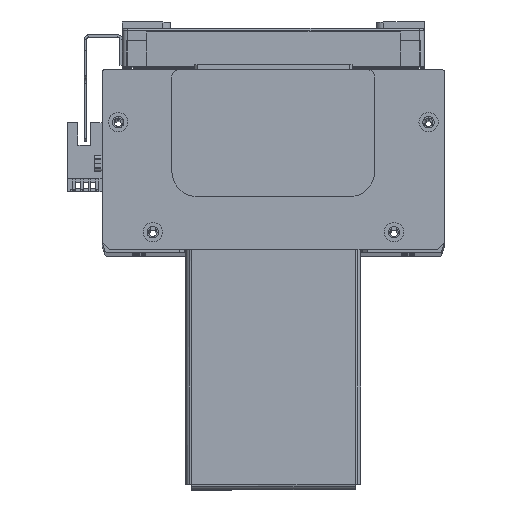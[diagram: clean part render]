
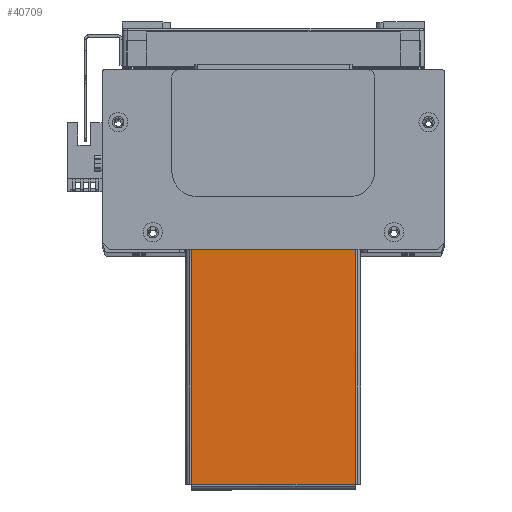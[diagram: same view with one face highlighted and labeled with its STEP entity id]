
A CAD part, top view. The second image highlights one B-rep face of the part: STEP entity #40709.
In plain terms, the highlighted planar face has unit normal (0, 0, 1) as drawn and (0, -1, 0) by its records, which use the part's own axes.
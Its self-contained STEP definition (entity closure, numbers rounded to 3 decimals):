
#976 = VERTEX_POINT ( 'NONE', #34907 ) ;
#984 = VERTEX_POINT ( 'NONE', #34879 ) ;
#985 = VERTEX_POINT ( 'NONE', #34909 ) ;
#986 = VERTEX_POINT ( 'NONE', #34896 ) ;
#2270 = DIRECTION ( 'NONE',  ( 0., 0., 1. ) ) ;
#2272 = CARTESIAN_POINT ( 'NONE',  ( 0., -1.5, 0. ) ) ;
#2279 = DIRECTION ( 'NONE',  ( 0., 1., 0. ) ) ;
#2281 = PLANE ( 'NONE',  #39829 ) ;
#3282 = LINE ( 'NONE', #14411, #3284 ) ;
#3284 = VECTOR ( 'NONE', #14397, 1000. ) ;
#3290 = VECTOR ( 'NONE', #13871, 1000. ) ;
#3304 = LINE ( 'NONE', #14482, #3290 ) ;
#3313 = LINE ( 'NONE', #14488, #3325 ) ;
#3325 = VECTOR ( 'NONE', #13893, 1000. ) ;
#3362 = LINE ( 'NONE', #55008, #3385 ) ;
#3385 = VECTOR ( 'NONE', #55002, 1000. ) ;
#13871 = DIRECTION ( 'NONE',  ( 1., 0., 0. ) ) ;
#13893 = DIRECTION ( 'NONE',  ( -1., 0., 0. ) ) ;
#14397 = DIRECTION ( 'NONE',  ( 0., 0., -1. ) ) ;
#14411 = CARTESIAN_POINT ( 'NONE',  ( -94.763, -1.5, 32.293 ) ) ;
#14482 = CARTESIAN_POINT ( 'NONE',  ( -94.793, -1.5, -32.263 ) ) ;
#14488 = CARTESIAN_POINT ( 'NONE',  ( 94.793, -1.5, 32.263 ) ) ;
#17829 = FACE_OUTER_BOUND ( 'NONE', #60223, .T. ) ;
#25803 = ORIENTED_EDGE ( 'NONE', *, *, #49409, .F. ) ;
#25929 = ORIENTED_EDGE ( 'NONE', *, *, #49379, .T. ) ;
#25979 = ORIENTED_EDGE ( 'NONE', *, *, #49377, .T. ) ;
#25989 = ORIENTED_EDGE ( 'NONE', *, *, #49374, .T. ) ;
#34879 = CARTESIAN_POINT ( 'NONE',  ( -2., -1.5, 32.263 ) ) ;
#34896 = CARTESIAN_POINT ( 'NONE',  ( -94.763, -1.5, 32.263 ) ) ;
#34907 = CARTESIAN_POINT ( 'NONE',  ( -2., -1.5, -32.263 ) ) ;
#34909 = CARTESIAN_POINT ( 'NONE',  ( -94.763, -1.5, -32.263 ) ) ;
#39829 = AXIS2_PLACEMENT_3D ( 'NONE', #2272, #2279, #2270 ) ;
#40709 = ADVANCED_FACE ( 'NONE', ( #17829 ), #2281, .F. ) ;
#49374 = EDGE_CURVE ( 'NONE', #986, #985, #3282, .T. ) ;
#49377 = EDGE_CURVE ( 'NONE', #985, #976, #3304, .T. ) ;
#49379 = EDGE_CURVE ( 'NONE', #984, #986, #3313, .T. ) ;
#49409 = EDGE_CURVE ( 'NONE', #984, #976, #3362, .T. ) ;
#55002 = DIRECTION ( 'NONE',  ( 0., 0., -1. ) ) ;
#55008 = CARTESIAN_POINT ( 'NONE',  ( -2., -1.5, 34.5 ) ) ;
#60223 = EDGE_LOOP ( 'NONE', ( #25979, #25803, #25929, #25989 ) ) ;
